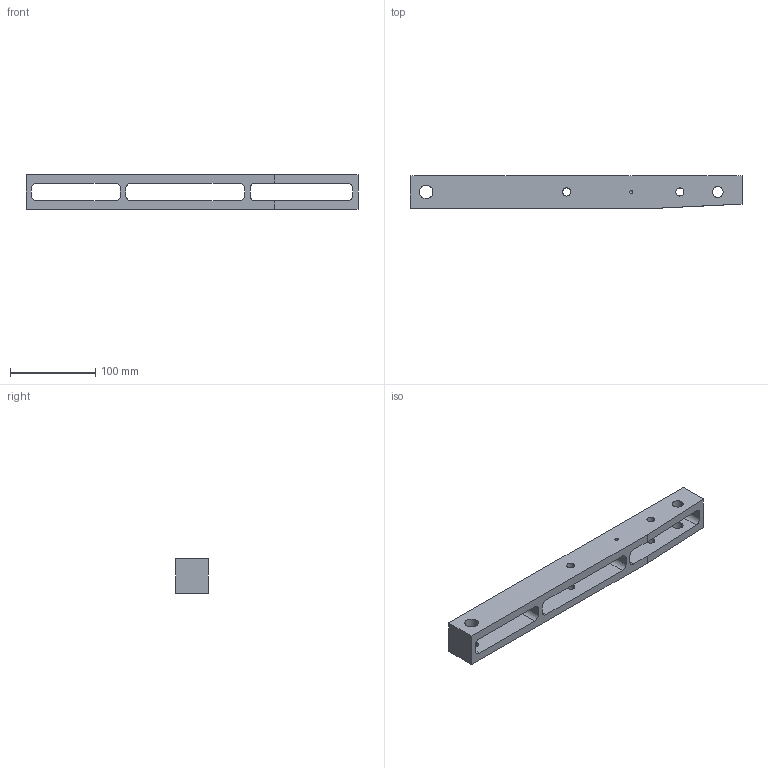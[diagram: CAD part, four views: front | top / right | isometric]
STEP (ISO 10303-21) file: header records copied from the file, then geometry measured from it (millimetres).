
FILE_DESCRIPTION((''),'2;1');
FILE_NAME('DM_JT_001','2009-04-11T',('Daniel Morehouse'),(''),'PRO/ENGINEER BY PARAMETRIC TECHNOLOGY CORPORATION, 2008230','PRO/ENGINEER BY PARAMETRIC TECHNOLOGY CORPORATION, 2008230','');
FILE_SCHEMA(('CONFIG_CONTROL_DESIGN'));
Length unit declared in the file: inch
Products named in the file (1): DM_JT_001
Bounding box: 390.52 x 38.1 x 41 mm (x, y, z)
Volume: 310979.4 mm3; surface area: 81670 mm2
Topology: 1 solids, 1 shells, 55 faces, 164 edges, 106 vertices
Faces by surface type: cylinder 32, plane 19, cone 4
Entity records: 1952 total; most frequent: CARTESIAN_POINT 361, DIRECTION 326, ORIENTED_EDGE 320, EDGE_CURVE 160, AXIS2_PLACEMENT_3D 117, VERTEX_POINT 106, VECTOR 92, LINE 92
